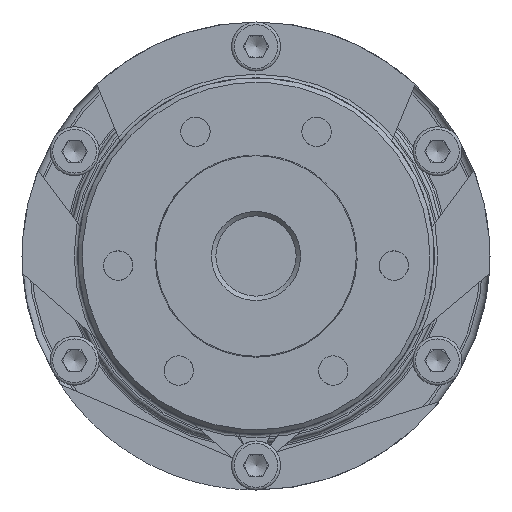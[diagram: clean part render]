
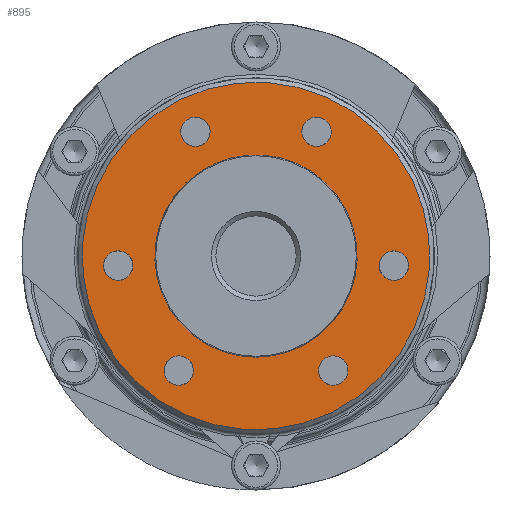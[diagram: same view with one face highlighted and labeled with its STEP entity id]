
A CAD part, left-side view. The second image highlights one B-rep face of the part: STEP entity #895.
In plain terms, the highlighted planar face has unit normal (-1, 0, 0).
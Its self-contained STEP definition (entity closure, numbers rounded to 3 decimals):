
#895 = ADVANCED_FACE( '', ( #2509, #2510, #2511, #2512, #2513, #2514, #2515, #2516 ), #2517, .T. );
#2509 = FACE_OUTER_BOUND( '', #5130, .T. );
#2510 = FACE_BOUND( '', #5131, .T. );
#2511 = FACE_BOUND( '', #5132, .T. );
#2512 = FACE_BOUND( '', #5133, .T. );
#2513 = FACE_BOUND( '', #5134, .T. );
#2514 = FACE_BOUND( '', #5135, .T. );
#2515 = FACE_BOUND( '', #5136, .T. );
#2516 = FACE_BOUND( '', #5137, .T. );
#2517 = PLANE( '', #5138 );
#5130 = EDGE_LOOP( '', ( #8031 ) );
#5131 = EDGE_LOOP( '', ( #8032 ) );
#5132 = EDGE_LOOP( '', ( #8033 ) );
#5133 = EDGE_LOOP( '', ( #8034 ) );
#5134 = EDGE_LOOP( '', ( #8035 ) );
#5135 = EDGE_LOOP( '', ( #8036 ) );
#5136 = EDGE_LOOP( '', ( #8037 ) );
#5137 = EDGE_LOOP( '', ( #8038 ) );
#5138 = AXIS2_PLACEMENT_3D( '', #8039, #8040, #8041 );
#8031 = ORIENTED_EDGE( '', *, *, #13771, .T. );
#8032 = ORIENTED_EDGE( '', *, *, #13542, .F. );
#8033 = ORIENTED_EDGE( '', *, *, #13772, .F. );
#8034 = ORIENTED_EDGE( '', *, *, #13773, .F. );
#8035 = ORIENTED_EDGE( '', *, *, #13774, .F. );
#8036 = ORIENTED_EDGE( '', *, *, #13775, .F. );
#8037 = ORIENTED_EDGE( '', *, *, #13776, .F. );
#8038 = ORIENTED_EDGE( '', *, *, #13777, .F. );
#8039 = CARTESIAN_POINT( '', ( -41.25, -10.904, 16.166 ) );
#8040 = DIRECTION( '', ( -1., 0., 0. ) );
#8041 = DIRECTION( '', ( 0., 0., 1. ) );
#13542 = EDGE_CURVE( '', #15871, #15871, #15872, .T. );
#13771 = EDGE_CURVE( '', #16272, #16272, #16273, .T. );
#13772 = EDGE_CURVE( '', #16274, #16274, #16275, .T. );
#13773 = EDGE_CURVE( '', #16276, #16276, #16277, .T. );
#13774 = EDGE_CURVE( '', #16278, #16278, #16279, .T. );
#13775 = EDGE_CURVE( '', #16280, #16280, #16281, .T. );
#13776 = EDGE_CURVE( '', #16282, #16282, #16283, .T. );
#13777 = EDGE_CURVE( '', #16284, #16284, #16285, .T. );
#15871 = VERTEX_POINT( '', #19287 );
#15872 = CIRCLE( '', #19288, 1.65 );
#16272 = VERTEX_POINT( '', #19852 );
#16273 = CIRCLE( '', #19853, 19.5 );
#16274 = VERTEX_POINT( '', #19854 );
#16275 = CIRCLE( '', #19855, 1.65 );
#16276 = VERTEX_POINT( '', #19856 );
#16277 = CIRCLE( '', #19857, 1.65 );
#16278 = VERTEX_POINT( '', #19858 );
#16279 = CIRCLE( '', #19859, 1.65 );
#16280 = VERTEX_POINT( '', #19860 );
#16281 = CIRCLE( '', #19861, 1.65 );
#16282 = VERTEX_POINT( '', #19862 );
#16283 = CIRCLE( '', #19863, 1.65 );
#16284 = VERTEX_POINT( '', #19864 );
#16285 = CIRCLE( '', #19865, 11.35 );
#19287 = CARTESIAN_POINT( '', ( -41.25, -16.385, 0.287 ) );
#19288 = AXIS2_PLACEMENT_3D( '', #24666, #24667, #24668 );
#19852 = CARTESIAN_POINT( '', ( -41.25, -10.904, 16.166 ) );
#19853 = AXIS2_PLACEMENT_3D( '', #25074, #25075, #25076 );
#19854 = CARTESIAN_POINT( '', ( -41.25, -9.59, -11.482 ) );
#19855 = AXIS2_PLACEMENT_3D( '', #25077, #25078, #25079 );
#19856 = CARTESIAN_POINT( '', ( -41.25, 7.745, -11.482 ) );
#19857 = AXIS2_PLACEMENT_3D( '', #25080, #25081, #25082 );
#19858 = CARTESIAN_POINT( '', ( -41.25, 14.54, 0.287 ) );
#19859 = AXIS2_PLACEMENT_3D( '', #25083, #25084, #25085 );
#19860 = CARTESIAN_POINT( '', ( -41.25, 5.872, 15.299 ) );
#19861 = AXIS2_PLACEMENT_3D( '', #25086, #25087, #25088 );
#19862 = CARTESIAN_POINT( '', ( -41.25, -7.717, 15.299 ) );
#19863 = AXIS2_PLACEMENT_3D( '', #25089, #25090, #25091 );
#19864 = CARTESIAN_POINT( '', ( -41.25, -6.347, 9.41 ) );
#19865 = AXIS2_PLACEMENT_3D( '', #25092, #25093, #25094 );
#24666 = CARTESIAN_POINT( '', ( -41.25, -15.462, -1.081 ) );
#24667 = DIRECTION( '', ( -1., 0., 0. ) );
#24668 = DIRECTION( '', ( 0., -0.559, 0.829 ) );
#25074 = CARTESIAN_POINT( '', ( -41.25, 0., 0. ) );
#25075 = DIRECTION( '', ( -1., 0., 0. ) );
#25076 = DIRECTION( '', ( 0., -0.559, 0.829 ) );
#25077 = CARTESIAN_POINT( '', ( -41.25, -8.667, -12.85 ) );
#25078 = DIRECTION( '', ( -1., 0., 0. ) );
#25079 = DIRECTION( '', ( 0., -0.559, 0.829 ) );
#25080 = CARTESIAN_POINT( '', ( -41.25, 8.667, -12.85 ) );
#25081 = DIRECTION( '', ( -1., 0., 0. ) );
#25082 = DIRECTION( '', ( 0., -0.559, 0.829 ) );
#25083 = CARTESIAN_POINT( '', ( -41.25, 15.462, -1.081 ) );
#25084 = DIRECTION( '', ( -1., 0., 0. ) );
#25085 = DIRECTION( '', ( 0., -0.559, 0.829 ) );
#25086 = CARTESIAN_POINT( '', ( -41.25, 6.795, 13.931 ) );
#25087 = DIRECTION( '', ( -1., 0., 0. ) );
#25088 = DIRECTION( '', ( 0., -0.559, 0.829 ) );
#25089 = CARTESIAN_POINT( '', ( -41.25, -6.795, 13.931 ) );
#25090 = DIRECTION( '', ( -1., 0., 0. ) );
#25091 = DIRECTION( '', ( 0., -0.559, 0.829 ) );
#25092 = CARTESIAN_POINT( '', ( -41.25, 0., 0. ) );
#25093 = DIRECTION( '', ( -1., 0., 0. ) );
#25094 = DIRECTION( '', ( 0., -0.559, 0.829 ) );
